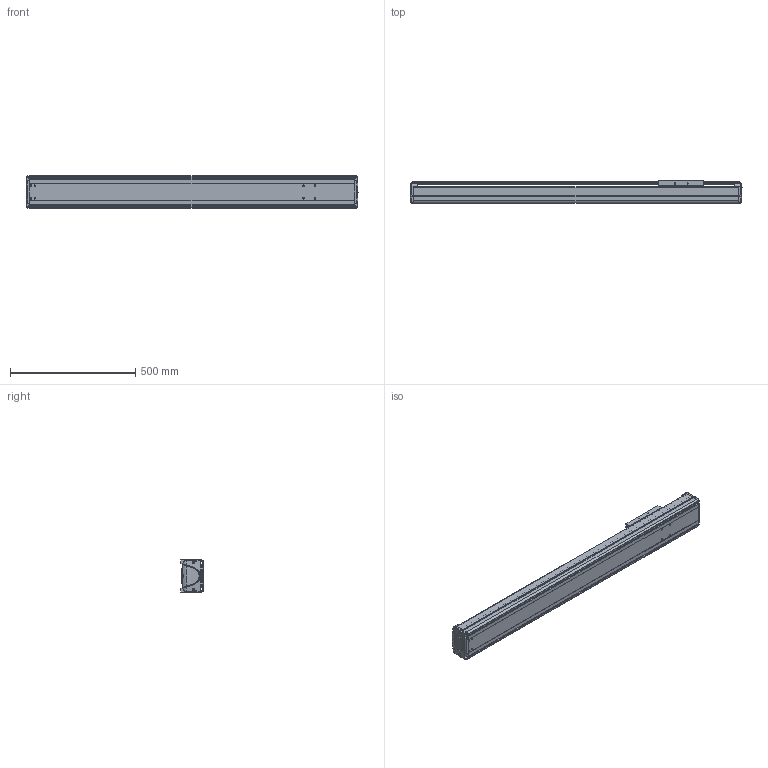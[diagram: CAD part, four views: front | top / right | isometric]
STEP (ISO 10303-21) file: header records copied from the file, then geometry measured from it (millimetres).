
FILE_DESCRIPTION((''),'2;1');
FILE_NAME('BE30E-ST-L_B-95_IGS_PRT','2017-06-17T',(' '),(''),'PRO/ENGINEER BY PARAMETRIC TECHNOLOGY CORPORATION, 2015030','PRO/ENGINEER BY PARAMETRIC TECHNOLOGY CORPORATION, 2015030','');
FILE_SCHEMA(('CONFIG_CONTROL_DESIGN'));
Length unit declared in the file: millimetre
Products named in the file (1): BE30E-ST-L_B-95_IGS_PRT
Bounding box: 1325 x 89.8 x 130 mm (x, y, z)
Volume: 4082604 mm3; surface area: 1594762 mm2
Topology: 3 solids, 94 shells, 1402 faces, 3787 edges, 2481 vertices
Faces by surface type: cylinder 651, plane 600, bspline 55, torus 42, cone 30, sphere 24
Entity records: 47233 total; most frequent: CARTESIAN_POINT 11817, DIRECTION 7312, ORIENTED_EDGE 7172, EDGE_CURVE 3767, AXIS2_PLACEMENT_3D 2658, VERTEX_POINT 2481, VECTOR 1996, LINE 1996
